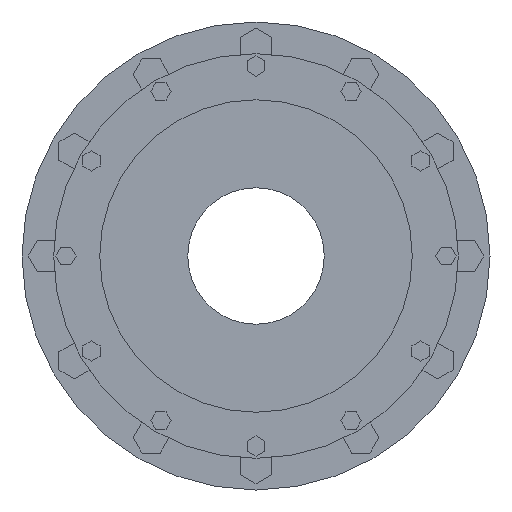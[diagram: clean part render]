
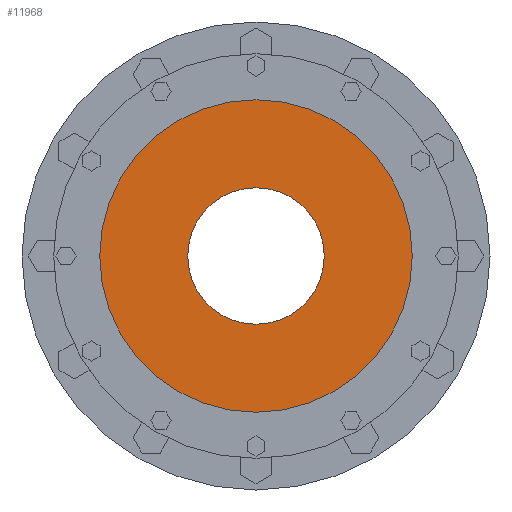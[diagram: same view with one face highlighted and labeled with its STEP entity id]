
A CAD part, left-side view. The second image highlights one B-rep face of the part: STEP entity #11968.
In plain terms, the highlighted planar face has unit normal (-1, 0, 0).
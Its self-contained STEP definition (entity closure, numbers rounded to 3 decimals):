
#11666=CARTESIAN_POINT('',(-257.,0.,0.));
#11667=DIRECTION('',(1.,0.,0.));
#11668=DIRECTION('',(0.,1.,0.));
#11669=AXIS2_PLACEMENT_3D('',#11666,#11667,#11668);
#11745=CARTESIAN_POINT('',(-257.,0.,0.));
#11746=DIRECTION('',(-1.,0.,0.));
#11747=DIRECTION('',(0.,1.,0.));
#11748=AXIS2_PLACEMENT_3D('',#11745,#11746,#11747);
#11750=CARTESIAN_POINT('',(-257.,0.,0.));
#11751=DIRECTION('',(1.,0.,0.));
#11752=DIRECTION('',(0.,1.,0.));
#11753=AXIS2_PLACEMENT_3D('',#11750,#11751,#11752);
#11764=CARTESIAN_POINT('',(-257.,0.,0.));
#11765=DIRECTION('',(-1.,0.,0.));
#11766=DIRECTION('',(0.,1.,0.));
#11767=AXIS2_PLACEMENT_3D('',#11764,#11765,#11766);
#11773=CARTESIAN_POINT('',(-257.,70.,0.));
#11774=CARTESIAN_POINT('',(-257.,-70.,0.));
#11775=VERTEX_POINT('',#11773);
#11776=VERTEX_POINT('',#11774);
#11777=CARTESIAN_POINT('',(-257.,160.25,0.));
#11778=CARTESIAN_POINT('',(-257.,-160.25,0.));
#11779=VERTEX_POINT('',#11777);
#11780=VERTEX_POINT('',#11778);
#11954=CARTESIAN_POINT('',(-257.,0.,0.));
#11955=DIRECTION('',(1.,0.,0.));
#11956=DIRECTION('',(0.,-1.,0.));
#11957=AXIS2_PLACEMENT_3D('',#11954,#11955,#11956);
#11958=PLANE('',#11957);
#11959=ORIENTED_EDGE('',*,*,#11936,.F.);
#11960=ORIENTED_EDGE('',*,*,#11949,.T.);
#11961=EDGE_LOOP('',(#11959,#11960));
#11962=FACE_OUTER_BOUND('',#11961,.F.);
#11963=ORIENTED_EDGE('',*,*,#11814,.F.);
#11965=ORIENTED_EDGE('',*,*,#11964,.T.);
#11966=EDGE_LOOP('',(#11963,#11965));
#11967=FACE_BOUND('',#11966,.F.);
#11968=ADVANCED_FACE('',(#11962,#11967),#11958,.F.);
#11670=CIRCLE('',#11669,70.);
#11749=CIRCLE('',#11748,160.25);
#11754=CIRCLE('',#11753,160.25);
#11768=CIRCLE('',#11767,70.);
#11814=EDGE_CURVE('',#11775,#11776,#11670,.T.);
#11936=EDGE_CURVE('',#11779,#11780,#11749,.T.);
#11949=EDGE_CURVE('',#11779,#11780,#11754,.T.);
#11964=EDGE_CURVE('',#11775,#11776,#11768,.T.);
